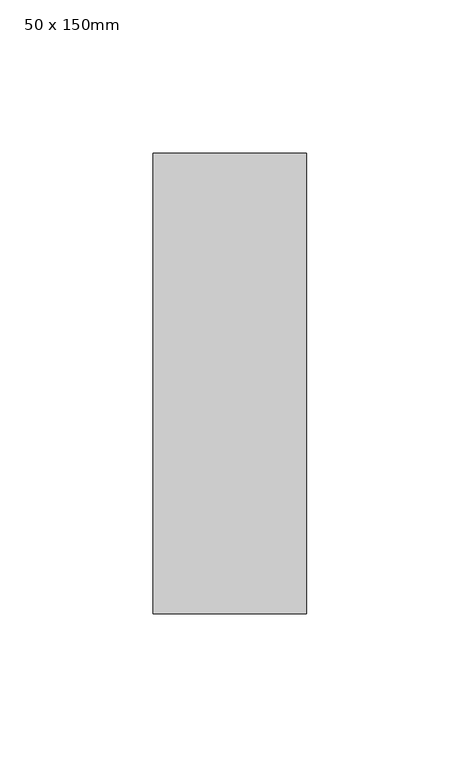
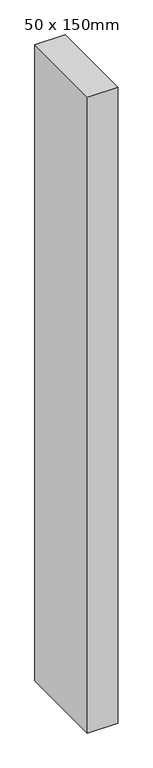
"""IFC4 building model written with IfcOpenShell, lengths in millimetres: member geometry, Прямоугольный импост : 50 x 150mm."""

from ifc_helpers import new_model, si_unit, frame, origin, place, context, project, spatial, polyline, outline, extrude, source, transform, mapped, element, save


def member_50_x_150mm_ec5d081a(model_context):
    return source(origin(), model_context, "Body", "SweptSolid", [
        extrude(outline(polyline([(25.0, 75.0), (25.0, -75.0), (-25.0, -75.0), (-25.0, 75.0), (25.0, 75.0)])), frame((0.0, 0.0, -1110.0), z_axis=(0.0, 0.0, 1.0), x_axis=(1.0, 0.0, 0.0)), (0.0, 0.0, 1.0), 1110.0),
    ])


if __name__ == "__main__":
    model = new_model("IFC4")
    model_context = context("Model", 3, world=origin())
    ifc_project = project(units=[si_unit("LENGTHUNIT", "METRE", prefix="MILLI")], contexts=[model_context])
    site = spatial("IfcSite", under=ifc_project)
    building = spatial("IfcBuilding", under=site)
    placement = place(None, origin())
    member_50_x_150mm_shape = member_50_x_150mm_ec5d081a(model_context)
    element("IfcMember", 1, ObjectType="Прямоугольный импост : 50 x 150mm", at=placement, inside=building, context=model_context, shape_type="MappedRepresentation", body=[
        mapped(member_50_x_150mm_shape, transform((0.0, 0.0, 0.0), x_axis=(1.0, 0.0, 0.0), y_axis=(0.0, 1.0, 0.0), z_axis=(0.0, 0.0, 1.0))),
    ])
    save(model, "model.ifc")
